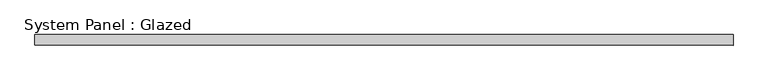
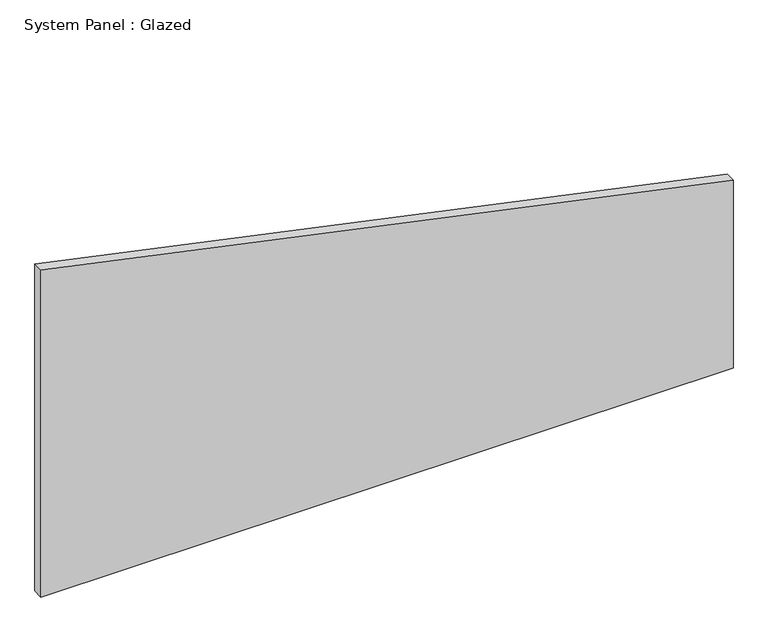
"""IFC4 building model written with IfcOpenShell, lengths in millimetres: plate geometry, System Panel : Glazed."""

from ifc_helpers import new_model, si_unit, frame, origin, place, context, project, spatial, polyline, outline, extrude, source, transform, mapped, element, save


def system_panel_glazed_8aa4ee30(model_context):
    return source(origin(), model_context, "Body", "SweptSolid", [
        extrude(outline(polyline([(0.0, -825.0), (0.0, 825.0), (474.3947966, 825.0), (825.1131233, -825.0), (0.0, -825.0)])), frame((0.0, -49.5, 0.0), z_axis=(0.0, 1.0, 0.0), x_axis=(0.0, 0.0, 1.0)), (0.0, 0.0, 1.0), 25.0),
    ])


if __name__ == "__main__":
    model = new_model("IFC4")
    model_context = context("Model", 3, world=origin())
    ifc_project = project(units=[si_unit("LENGTHUNIT", "METRE", prefix="MILLI")], contexts=[model_context])
    site = spatial("IfcSite", under=ifc_project)
    building = spatial("IfcBuilding", under=site)
    placement = place(None, origin())
    system_panel_glazed_shape = system_panel_glazed_8aa4ee30(model_context)
    element("IfcPlate", 1, ObjectType="System Panel : Glazed", at=placement, inside=building, context=model_context, shape_type="MappedRepresentation", body=[
        mapped(system_panel_glazed_shape, transform((0.0, 0.0, 0.0), x_axis=(1.0, 0.0, 0.0), y_axis=(0.0, 1.0, 0.0), z_axis=(0.0, 0.0, 1.0))),
    ])
    save(model, "model.ifc")
